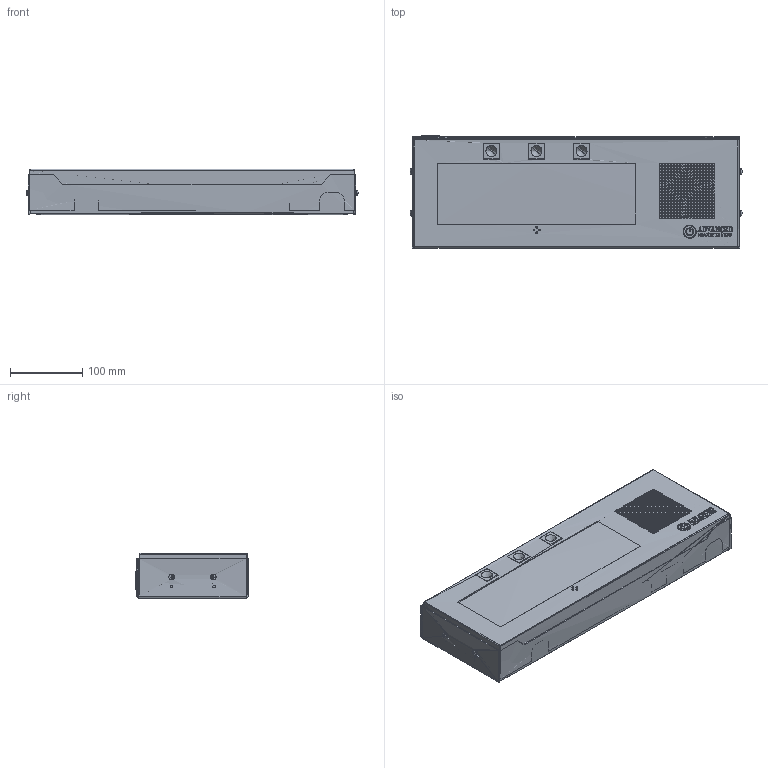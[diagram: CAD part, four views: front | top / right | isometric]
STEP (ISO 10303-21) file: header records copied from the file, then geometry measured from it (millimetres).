
FILE_DESCRIPTION (( 'STEP AP214' ), '1' );
FILE_NAME ('IPCSS-RWB assembly_ext_faces.STEP', '2021-02-26T17:50:01', ( '' ), ( '' ), 'SwSTEP 2.0', 'SolidWorks 2018', '' );
FILE_SCHEMA (( 'AUTOMOTIVE_DESIGN' ));
Length unit declared in the file: millimetre
Products named in the file (1): IPCSS-RWB assembly_ext_faces
Bounding box: 459.7 x 155.45 x 62.94 mm (x, y, z)
Surface area: 517026.9 mm2 (no closed solid volume)
Topology: 0 solids, 13 shells, 1022 faces, 3271 edges, 2267 vertices
Faces by surface type: cylinder 780, plane 203, bspline 23, torus 16
Entity records: 66151 total; most frequent: CARTESIAN_POINT 41611, ORIENTED_EDGE 6364, EDGE_CURVE 3245, B_SPLINE_CURVE_WITH_KNOTS 3234, VERTEX_POINT 2265, DIRECTION 2000, EDGE_LOOP 1837, ADVANCED_FACE 1022
